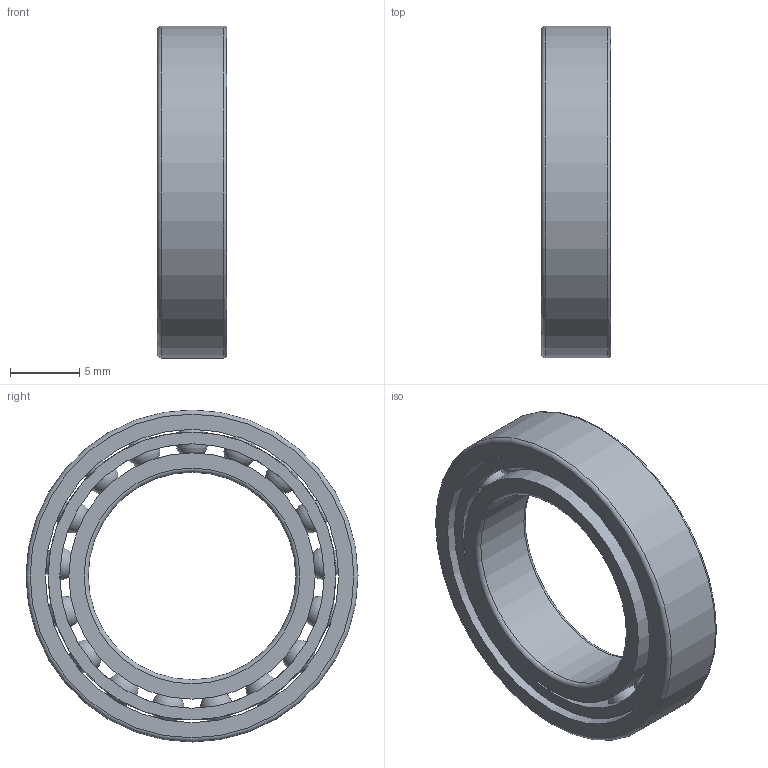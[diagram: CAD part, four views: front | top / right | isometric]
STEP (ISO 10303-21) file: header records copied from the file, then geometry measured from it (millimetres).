
FILE_DESCRIPTION(/* description */ (''),/* implementation_level */ '2;1');
FILE_NAME(/* name */ 'S_61802_TA.step',/* time_stamp */ '2013-03-06T14:46:27+01:00',/* author */ ('Marian'),/* organization */ ('GMN'),/* preprocessor_version */ 'ST-DEVELOPER v11',/* originating_system */ 'SIEMENS UGS NX 6.0',/* authorisation */ '');
FILE_SCHEMA (('CONFIG_CONTROL_DESIGN'));
Length unit declared in the file: millimetre
Products named in the file (1): S_61802_TA
Bounding box: 5 x 24 x 24 mm (x, y, z)
Volume: 1026.8 mm3; surface area: 2386.8 mm2
Topology: 20 solids, 20 shells, 54 faces, 136 edges, 88 vertices
Faces by surface type: cylinder 24, sphere 17, torus 6, plane 6, cone 1
Full cylindrical faces by diameter (mm): 2.581 x17, 15 x1, 17.8 x2, 19.121 x1, 20.8 x1, 21.2 x1, 24 x1
Entity records: 3116 total; most frequent: CARTESIAN_POINT 2118, DIRECTION 150, FACE_BOUND 125, EDGE_LOOP 108, ORIENTED_EDGE 108, AXIS2_PLACEMENT_3D 75, VERTEX_POINT 71, EDGE_CURVE 54
